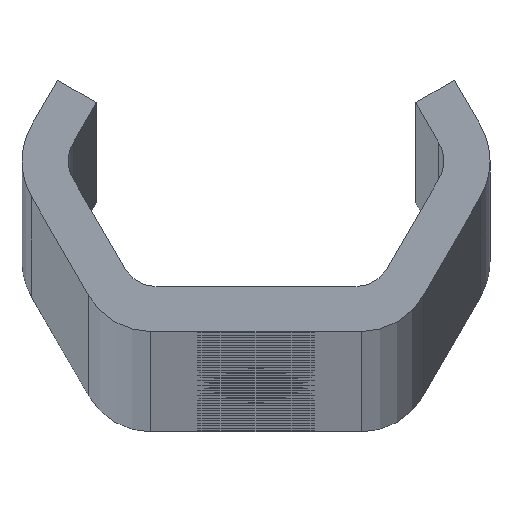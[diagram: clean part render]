
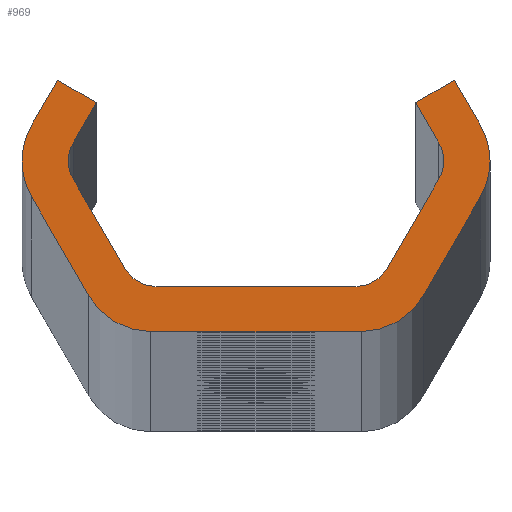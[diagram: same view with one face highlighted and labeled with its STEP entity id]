
A CAD part, top view. The second image highlights one B-rep face of the part: STEP entity #969.
In plain terms, the highlighted planar face has unit normal (0, 0, 1).
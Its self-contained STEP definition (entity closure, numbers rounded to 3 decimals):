
#969=ADVANCED_FACE('NONE',(#2613),#2614,.F.);
#2613=FACE_OUTER_BOUND('',#8279,.T.);
#2614=PLANE('',#8280);
#8279=EDGE_LOOP('',(#16869,#16870,#16871,#16872,#16873,#16874,#16875,#16876,#16877,#16878,#16879,#16880,#16881,#16882,#16883,#16884,#16885,#16886,#16887,#16888,#16889,#16890,#16891,#16892));
#8280=AXIS2_PLACEMENT_3D('',#16893,#16894,#16895);
#16869=ORIENTED_EDGE('',*,*,#22189,.T.);
#16870=ORIENTED_EDGE('',*,*,#22206,.T.);
#16871=ORIENTED_EDGE('',*,*,#22191,.T.);
#16872=ORIENTED_EDGE('',*,*,#22207,.T.);
#16873=ORIENTED_EDGE('',*,*,#22200,.F.);
#16874=ORIENTED_EDGE('',*,*,#22208,.T.);
#16875=ORIENTED_EDGE('',*,*,#21254,.T.);
#16876=ORIENTED_EDGE('',*,*,#22203,.F.);
#16877=ORIENTED_EDGE('',*,*,#21782,.F.);
#16878=ORIENTED_EDGE('',*,*,#21786,.F.);
#16879=ORIENTED_EDGE('',*,*,#21468,.T.);
#16880=ORIENTED_EDGE('',*,*,#22209,.T.);
#16881=ORIENTED_EDGE('',*,*,#21790,.F.);
#16882=ORIENTED_EDGE('',*,*,#22210,.T.);
#16883=ORIENTED_EDGE('',*,*,#21795,.F.);
#16884=ORIENTED_EDGE('',*,*,#22211,.T.);
#16885=ORIENTED_EDGE('',*,*,#22172,.T.);
#16886=ORIENTED_EDGE('',*,*,#22212,.T.);
#16887=ORIENTED_EDGE('',*,*,#21249,.T.);
#16888=ORIENTED_EDGE('',*,*,#22175,.T.);
#16889=ORIENTED_EDGE('',*,*,#22181,.T.);
#16890=ORIENTED_EDGE('',*,*,#22185,.T.);
#16891=ORIENTED_EDGE('',*,*,#22213,.T.);
#16892=ORIENTED_EDGE('',*,*,#21471,.T.);
#16893=CARTESIAN_POINT('',(0.0,0.0,3200.0));
#16894=DIRECTION('',(0.0,0.0,-1.0));
#16895=DIRECTION('',(0.0,-1.0,0.0));
#21249=EDGE_CURVE('NONE',#23676,#23680,#23682,.T.);
#21254=EDGE_CURVE('NONE',#23685,#23689,#23691,.T.);
#21468=EDGE_CURVE('NONE',#24076,#24074,#24077,.T.);
#21471=EDGE_CURVE('NONE',#24080,#24081,#24082,.T.);
#21782=EDGE_CURVE('NONE',#24548,#24550,#24551,.T.);
#21786=EDGE_CURVE('NONE',#24076,#24548,#24555,.T.);
#21790=EDGE_CURVE('NONE',#24560,#24562,#24563,.T.);
#21795=EDGE_CURVE('NONE',#24569,#24571,#24572,.T.);
#22172=EDGE_CURVE('NONE',#25302,#25300,#25303,.T.);
#22175=EDGE_CURVE('NONE',#23680,#25306,#25307,.T.);
#22181=EDGE_CURVE('NONE',#25306,#25314,#25316,.T.);
#22185=EDGE_CURVE('NONE',#25314,#25320,#25322,.T.);
#22189=EDGE_CURVE('NONE',#24081,#25326,#25328,.T.);
#22191=EDGE_CURVE('NONE',#25330,#25331,#25332,.T.);
#22200=EDGE_CURVE('NONE',#25344,#25346,#25347,.T.);
#22203=EDGE_CURVE('NONE',#24550,#23689,#25350,.T.);
#22206=EDGE_CURVE('NONE',#25326,#25330,#25353,.T.);
#22207=EDGE_CURVE('NONE',#25331,#25346,#25354,.T.);
#22208=EDGE_CURVE('NONE',#25344,#23685,#25355,.T.);
#22209=EDGE_CURVE('NONE',#24074,#24562,#25356,.T.);
#22210=EDGE_CURVE('NONE',#24560,#24571,#25357,.T.);
#22211=EDGE_CURVE('NONE',#24569,#25302,#25358,.T.);
#22212=EDGE_CURVE('NONE',#25300,#23676,#25359,.T.);
#22213=EDGE_CURVE('NONE',#25320,#24080,#25360,.T.);
#23676=VERTEX_POINT('',#27273);
#23680=VERTEX_POINT('NONE',#27278);
#23682=CIRCLE('',#27281,2.0);
#23685=VERTEX_POINT('',#27284);
#23689=VERTEX_POINT('NONE',#27289);
#23691=CIRCLE('',#27292,4.0);
#24074=VERTEX_POINT('NONE',#31179);
#24076=VERTEX_POINT('NONE',#31182);
#24077=CIRCLE('',#31183,2.0);
#24080=VERTEX_POINT('NONE',#31187);
#24081=VERTEX_POINT('NONE',#31188);
#24082=CIRCLE('',#31189,4.0);
#24548=VERTEX_POINT('NONE',#31734);
#24550=VERTEX_POINT('NONE',#31737);
#24551=LINE('',#31738,#31739);
#24555=LINE('',#31745,#31746);
#24560=VERTEX_POINT('NONE',#31752);
#24562=VERTEX_POINT('NONE',#31755);
#24563=LINE('',#31756,#31757);
#24569=VERTEX_POINT('NONE',#31765);
#24571=VERTEX_POINT('NONE',#31768);
#24572=LINE('',#31769,#31770);
#25300=VERTEX_POINT('NONE',#34500);
#25302=VERTEX_POINT('NONE',#34503);
#25303=LINE('',#34504,#34505);
#25306=VERTEX_POINT('NONE',#34509);
#25307=LINE('',#34510,#34511);
#25314=VERTEX_POINT('NONE',#34521);
#25316=LINE('',#34524,#34525);
#25320=VERTEX_POINT('NONE',#34530);
#25322=LINE('',#34533,#34534);
#25326=VERTEX_POINT('NONE',#34539);
#25328=LINE('',#34542,#34543);
#25330=VERTEX_POINT('NONE',#34545);
#25331=VERTEX_POINT('NONE',#34546);
#25332=LINE('',#34547,#34548);
#25344=VERTEX_POINT('NONE',#34564);
#25346=VERTEX_POINT('NONE',#34567);
#25347=LINE('',#34568,#34569);
#25350=LINE('',#34573,#34574);
#25353=CIRCLE('',#34578,4.0);
#25354=CIRCLE('',#34579,4.0);
#25355=CIRCLE('',#34580,4.0);
#25356=CIRCLE('',#34581,2.0);
#25357=CIRCLE('',#34582,2.0);
#25358=CIRCLE('',#34583,2.0);
#25359=CIRCLE('',#34584,2.0);
#25360=CIRCLE('',#34585,4.0);
#27273=CARTESIAN_POINT('',(-10.455,0.,3200.0));
#27278=CARTESIAN_POINT('',(-10.187,1.,3200.0));
#27281=AXIS2_PLACEMENT_3D('',#41001,#41002,#41003);
#27284=CARTESIAN_POINT('',(13.032,0.,3200.0));
#27289=CARTESIAN_POINT('',(12.496,2.0,3200.0));
#27292=AXIS2_PLACEMENT_3D('',#41009,#41010,#41011);
#31179=CARTESIAN_POINT('',(10.455,0.,3200.0));
#31182=CARTESIAN_POINT('',(10.187,1.,3200.0));
#31183=AXIS2_PLACEMENT_3D('',#41112,#41113,#41114);
#31187=CARTESIAN_POINT('',(-13.032,0.,3200.0));
#31188=CARTESIAN_POINT('',(-12.496,-2.,3200.0));
#31189=AXIS2_PLACEMENT_3D('',#41116,#41117,#41118);
#31734=CARTESIAN_POINT('',(8.888,3.25,3200.0));
#31737=CARTESIAN_POINT('',(11.053,4.5,3200.0));
#31738=CARTESIAN_POINT('',(8.888,3.25,3200.0));
#31739=VECTOR('',#41658,1000.0);
#31745=CARTESIAN_POINT('',(10.764,0.,3200.0));
#31746=VECTOR('',#41661,1000.0);
#31752=CARTESIAN_POINT('',(7.3,-6.,3200.0));
#31755=CARTESIAN_POINT('',(10.187,-1.,3200.0));
#31756=CARTESIAN_POINT('',(6.723,-7.0,3200.0));
#31757=VECTOR('',#41664,1000.0);
#31765=CARTESIAN_POINT('',(-5.568,-7.0,3200.0));
#31768=CARTESIAN_POINT('',(5.568,-7.0,3200.0));
#31769=CARTESIAN_POINT('',(-6.723,-7.0,3200.0));
#31770=VECTOR('',#41668,1000.0);
#34500=CARTESIAN_POINT('',(-10.187,-1.,3200.0));
#34503=CARTESIAN_POINT('',(-7.3,-6.,3200.0));
#34504=CARTESIAN_POINT('',(-6.723,-7.0,3200.0));
#34505=VECTOR('',#42008,1000.0);
#34509=CARTESIAN_POINT('',(-8.888,3.25,3200.0));
#34510=CARTESIAN_POINT('',(-10.764,0.0,3200.0));
#34511=VECTOR('',#42010,1000.0);
#34521=CARTESIAN_POINT('',(-11.053,4.5,3200.0));
#34524=CARTESIAN_POINT('',(-8.888,3.25,3200.0));
#34525=VECTOR('',#42015,1000.0);
#34530=CARTESIAN_POINT('',(-12.496,2.0,3200.0));
#34533=CARTESIAN_POINT('',(-11.053,4.5,3200.0));
#34534=VECTOR('',#42018,1000.0);
#34539=CARTESIAN_POINT('',(-9.321,-7.5,3200.0));
#34542=CARTESIAN_POINT('',(-13.651,0.0,3200.0));
#34543=VECTOR('',#42021,1000.0);
#34545=CARTESIAN_POINT('',(-5.857,-9.5,3200.0));
#34546=CARTESIAN_POINT('',(5.857,-9.5,3200.0));
#34547=CARTESIAN_POINT('',(-8.166,-9.5,3200.0));
#34548=VECTOR('',#42022,1000.0);
#34564=CARTESIAN_POINT('',(12.496,-2.,3200.0));
#34567=CARTESIAN_POINT('',(9.321,-7.5,3200.0));
#34568=CARTESIAN_POINT('',(13.651,0.,3200.0));
#34569=VECTOR('',#42034,1000.0);
#34573=CARTESIAN_POINT('',(11.053,4.5,3200.0));
#34574=VECTOR('',#42036,1000.0);
#34578=AXIS2_PLACEMENT_3D('',#42038,#42039,#42040);
#34579=AXIS2_PLACEMENT_3D('',#42041,#42042,#42043);
#34580=AXIS2_PLACEMENT_3D('',#42044,#42045,#42046);
#34581=AXIS2_PLACEMENT_3D('',#42047,#42048,#42049);
#34582=AXIS2_PLACEMENT_3D('',#42050,#42051,#42052);
#34583=AXIS2_PLACEMENT_3D('',#42053,#42054,#42055);
#34584=AXIS2_PLACEMENT_3D('',#42056,#42057,#42058);
#34585=AXIS2_PLACEMENT_3D('',#42059,#42060,#42061);
#41001=CARTESIAN_POINT('',(-8.455,0.,3200.0));
#41002=DIRECTION('',(0.0,0.0,-1.0));
#41003=DIRECTION('',(-1.0,0.0,0.0));
#41009=CARTESIAN_POINT('',(9.032,0.,3200.0));
#41010=DIRECTION('',(0.0,0.0,1.0));
#41011=DIRECTION('',(-1.0,0.,0.0));
#41112=CARTESIAN_POINT('',(8.455,0.,3200.0));
#41113=DIRECTION('',(0.0,0.0,-1.0));
#41114=DIRECTION('',(-1.0,0.0,0.0));
#41116=CARTESIAN_POINT('',(-9.032,0.,3200.0));
#41117=DIRECTION('',(0.0,0.0,1.0));
#41118=DIRECTION('',(-1.0,0.0,0.0));
#41658=DIRECTION('',(0.866,0.5,0.0));
#41661=DIRECTION('',(-0.5,0.866,0.0));
#41664=DIRECTION('',(0.5,0.866,0.0));
#41668=DIRECTION('',(1.0,0.,0.0));
#42008=DIRECTION('',(-0.5,0.866,0.0));
#42010=DIRECTION('',(0.5,0.866,0.0));
#42015=DIRECTION('',(-0.866,0.5,0.0));
#42018=DIRECTION('',(-0.5,-0.866,0.0));
#42021=DIRECTION('',(0.5,-0.866,0.0));
#42022=DIRECTION('',(1.0,0.,0.0));
#42034=DIRECTION('',(-0.5,-0.866,0.0));
#42036=DIRECTION('',(0.5,-0.866,0.0));
#42038=CARTESIAN_POINT('',(-5.857,-5.5,3200.0));
#42039=DIRECTION('',(0.0,0.0,1.0));
#42040=DIRECTION('',(-1.0,0.0,0.0));
#42041=CARTESIAN_POINT('',(5.857,-5.5,3200.0));
#42042=DIRECTION('',(0.0,0.0,1.0));
#42043=DIRECTION('',(-1.0,0.0,0.0));
#42044=CARTESIAN_POINT('',(9.032,0.,3200.0));
#42045=DIRECTION('',(0.0,0.0,1.0));
#42046=DIRECTION('',(-1.0,0.,0.0));
#42047=CARTESIAN_POINT('',(8.455,0.,3200.0));
#42048=DIRECTION('',(0.0,0.0,-1.0));
#42049=DIRECTION('',(-1.0,0.0,0.0));
#42050=CARTESIAN_POINT('',(5.568,-5.0,3200.0));
#42051=DIRECTION('',(0.0,0.0,-1.0));
#42052=DIRECTION('',(-1.0,0.0,0.0));
#42053=CARTESIAN_POINT('',(-5.568,-5.0,3200.0));
#42054=DIRECTION('',(0.0,0.0,-1.0));
#42055=DIRECTION('',(-1.0,0.0,0.0));
#42056=CARTESIAN_POINT('',(-8.455,0.,3200.0));
#42057=DIRECTION('',(0.0,0.0,-1.0));
#42058=DIRECTION('',(-1.0,0.0,0.0));
#42059=CARTESIAN_POINT('',(-9.032,0.,3200.0));
#42060=DIRECTION('',(0.0,0.0,1.0));
#42061=DIRECTION('',(-1.0,0.,0.0));
